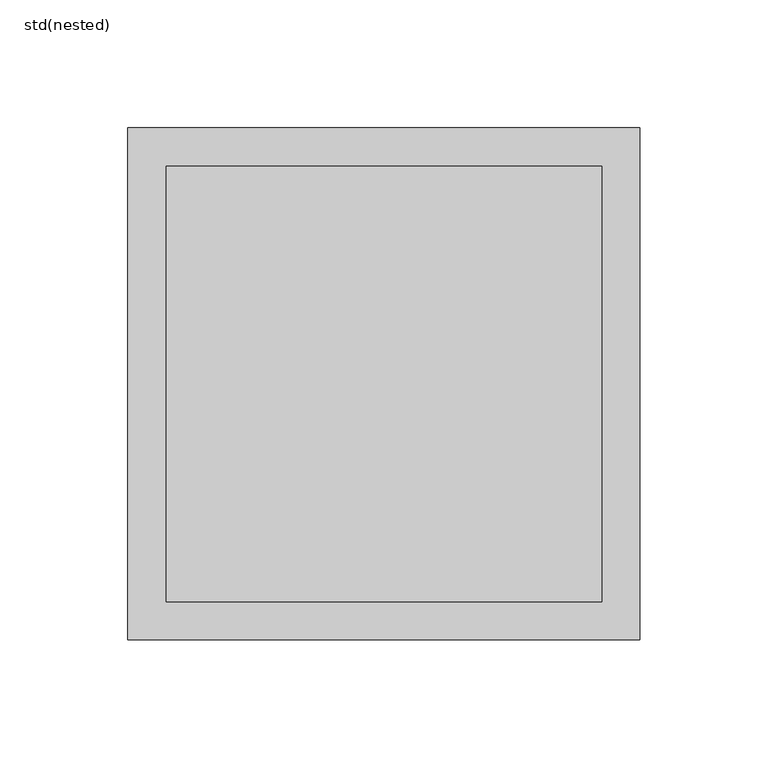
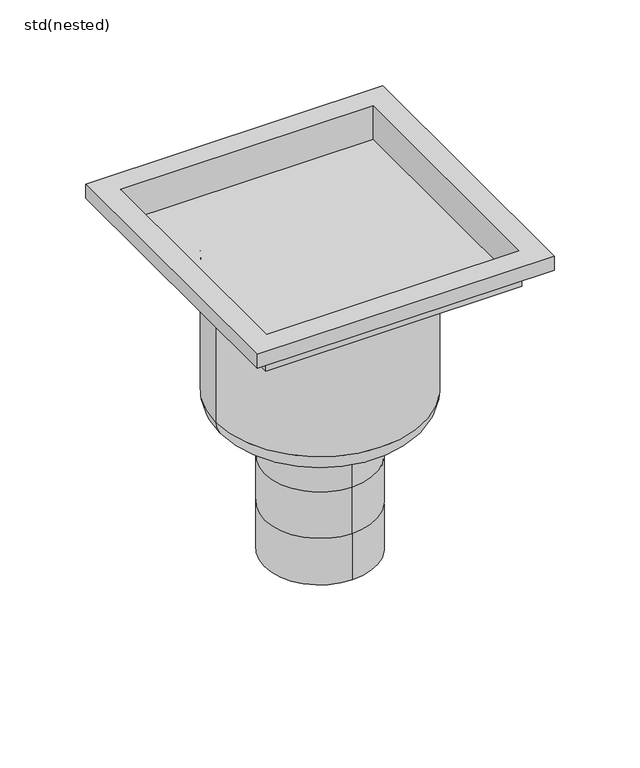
"""IFC4 building model written with IfcOpenShell, lengths in millimetres: sanitary terminal geometry, ZZZ_do not use_PF_ST_WPB_drain body fixed height gully Compact drain_CR 142_ACO : std(nested)."""

from ifc_helpers import new_model, si_unit, point, frame, origin, place, context, project, spatial, circle_curve, ellipse_curve, trimmed, source, transform, mapped, element, save
from ifc_brep_helpers import plane_surface, cylinder_surface, revolved_surface, advanced_brep


def std_nested_ddfe541a(model_context):
    return source(origin(), model_context, "Body", "AdvancedBrep", [
        advanced_brep(
        [(0.0, -37.5, -208.5), (0.0, 37.5, -208.5), (0.0, -37.5, -175.5), (0.0, 37.5, -175.5), (0.0, -37.5, -142.5), (0.0, 37.5, -142.5), (0.0, 37.5, -109.5), (37.5, 0.0, -109.5), (0.0, -37.5, -109.5), (-37.5, 0.0, -109.5), (70.0, 0.0, -94.5), (-70.0, 0.0, -94.5), (-70.0, 0.0, -2.0), (70.0, 0.0, -2.0), (55.0, 0.0, -109.5), (-55.0, 0.0, -109.5), (-70.0, 0.0, 0.0), (70.0, 0.0, 0.0), (85.0, 85.0, 1.25), (85.0, -85.0, 1.25), (85.0, -85.0, 25.0), (85.0, 85.0, 25.0), (100.0, 100.0, 15.0), (100.0, 100.0, 25.0), (100.0, -100.0, 25.0), (100.0, -100.0, 15.0), (86.25, 86.25, 0.0), (86.25, 86.25, 15.0), (86.25, -86.25, 15.0), (86.25, -86.25, 0.0), (-85.0, -85.0, 1.25), (-85.0, -85.0, 25.0), (-100.0, -100.0, 25.0), (-100.0, -100.0, 15.0), (-86.25, -86.25, 15.0), (-86.25, -86.25, 0.0), (-85.0, 85.0, 1.25), (-85.0, 85.0, 25.0), (-100.0, 100.0, 25.0), (-100.0, 100.0, 15.0), (-86.25, 86.25, 15.0), (-86.25, 86.25, 0.0)],
        [
            (0, 1, circle_curve(frame((0.0, 0.0, -208.5), z_axis=(0.0, 0.0, -1.0), x_axis=(0.0, 1.0, 0.0)), 37.5)),
            (1, 0, circle_curve(frame((0.0, 0.0, -208.5), z_axis=(0.0, 0.0, -1.0), x_axis=(0.0, 1.0, 0.0)), 37.5)),
            (0, 2),
            (2, 3, circle_curve(frame((0.0, 0.0, -175.5), z_axis=(0.0, 0.0, -1.0), x_axis=(0.0, 1.0, 0.0)), 37.5)),
            (3, 1),
            (3, 2, circle_curve(frame((0.0, 0.0, -175.5), z_axis=(0.0, 0.0, -1.0), x_axis=(0.0, 1.0, 0.0)), 37.5)),
            (4, 2),
            (3, 5),
            (5, 4, circle_curve(frame((0.0, 0.0, -142.5), z_axis=(0.0, 0.0, -1.0), x_axis=(1.0, 0.0, 0.0)), 37.5)),
            (4, 5, circle_curve(frame((0.0, 0.0, -142.5), z_axis=(0.0, 0.0, -1.0), x_axis=(-1.0, 0.0, 0.0)), 37.5)),
            (5, 6),
            (6, 7, circle_curve(frame((0.0, 0.0, -109.5), z_axis=(0.0, 0.0, -1.0), x_axis=(0.0, 1.0, 0.0)), 37.5)),
            (7, 8, circle_curve(frame((0.0, 0.0, -109.5), z_axis=(0.0, 0.0, -1.0), x_axis=(0.0, 1.0, 0.0)), 37.5)),
            (8, 4),
            (8, 9, circle_curve(frame((0.0, 0.0, -109.5), z_axis=(0.0, 0.0, -1.0), x_axis=(0.0, 1.0, 0.0)), 37.5)),
            (9, 6, circle_curve(frame((0.0, 0.0, -109.5), z_axis=(0.0, 0.0, -1.0), x_axis=(0.0, 1.0, 0.0)), 37.5)),
            (10, 11, circle_curve(frame((0.0, 0.0, -94.5), z_axis=(0.0, 0.0, 1.0), x_axis=(-1.0, 0.0, 0.0)), 70.0)),
            (11, 12),
            (12, 13, circle_curve(frame((0.0, 0.0, -2.0), z_axis=(0.0, 0.0, -1.0), x_axis=(-1.0, 0.0, 0.0)), 70.0)),
            (13, 10),
            (11, 10, circle_curve(frame((0.0, 0.0, -94.5), z_axis=(0.0, 0.0, 1.0), x_axis=(-1.0, 0.0, 0.0)), 70.0)),
            (13, 12, circle_curve(frame((0.0, 0.0, -2.0), z_axis=(0.0, 0.0, -1.0), x_axis=(-1.0, 0.0, 0.0)), 70.0)),
            (10, 14, circle_curve(frame((55.0, 0.0, -94.5), z_axis=(0.0, 1.0, 0.0), x_axis=(-1.0, 0.0, 0.0)), 15.0)),
            (14, 15, circle_curve(frame((0.0, 0.0, -109.5), z_axis=(0.0, 0.0, 1.0), x_axis=(-1.0, 0.0, 0.0)), 55.0)),
            (15, 11, circle_curve(frame((-55.0, 0.0, -94.5), z_axis=(0.0, 1.0, 0.0), x_axis=(1.0, 0.0, 0.0)), 15.0)),
            (15, 14, circle_curve(frame((0.0, 0.0, -109.5), z_axis=(0.0, 0.0, 1.0), x_axis=(-1.0, 0.0, 0.0)), 55.0)),
            (14, 7),
            (9, 15),
            (16, 12),
            (13, 17),
            (17, 16, circle_curve(frame((0.0, 0.0, 0.0), z_axis=(0.0, 0.0, -1.0), x_axis=(1.0, 0.0, 0.0)), 70.0)),
            (16, 17, circle_curve(frame((0.0, 0.0, 0.0), z_axis=(0.0, 0.0, -1.0), x_axis=(1.0, 0.0, 0.0)), 70.0)),
            (18, 19),
            (19, 20),
            (20, 21),
            (21, 18),
            (22, 23),
            (23, 24),
            (24, 25),
            (25, 22),
            (26, 27),
            (27, 28),
            (28, 29),
            (29, 26),
            (19, 30),
            (30, 31),
            (31, 20),
            (24, 32),
            (32, 33),
            (33, 25),
            (28, 34),
            (34, 35),
            (35, 29),
            (30, 36),
            (36, 37),
            (37, 31),
            (32, 38),
            (38, 39),
            (39, 33),
            (34, 40),
            (40, 41),
            (41, 35),
            (21, 37),
            (36, 18),
            (23, 38),
            (22, 39),
            (27, 40),
            (26, 41),
        ],
        [
            plane_surface(frame((0.0, 37.5, -208.5), z_axis=(0.0, 0.0, -1.0), x_axis=(1.0, 0.0, 0.0))),
            cylinder_surface(frame((0.0, 0.0, -175.5), z_axis=(0.0, 0.0, -1.0), x_axis=(0.0, 1.0, 0.0)), 37.5),
            cylinder_surface(frame((0.0, 0.0, -142.5), z_axis=(0.0, 0.0, -1.0), x_axis=(1.0, 0.0, 0.0)), 37.5),
            cylinder_surface(frame((0.0, 0.0, -142.5), z_axis=(0.0, 0.0, -1.0), x_axis=(-1.0, 0.0, 0.0)), 37.5),
            cylinder_surface(frame((0.0, 0.0, -109.5), z_axis=(0.0, 0.0, -1.0), x_axis=(0.0, 1.0, 0.0)), 37.5),
            cylinder_surface(frame((0.0, 0.0, 60.0), z_axis=(0.0, 0.0, -1.0), x_axis=(-1.0, 0.0, 0.0)), 70.0),
            revolved_surface(trimmed(ellipse_curve(frame((-55.0, 0.0, -94.5), z_axis=(0.0, -1.0, 0.0), x_axis=(1.0, 0.0, 0.0)), 15.0, 15.0), [point((-70.0, 0.0, -94.5))], [point((-55.0, 0.0, -109.5))], True, "CARTESIAN"), (0.0, 0.0, 60.0), (0.0, 0.0, -1.0)),
            plane_surface(frame((0.0, 0.0, -109.5), z_axis=(0.0, 0.0, -1.0), x_axis=(-1.0, 0.0, 0.0))),
            cylinder_surface(frame((0.0, 0.0, -2.0), z_axis=(0.0, 0.0, 1.0), x_axis=(1.0, 0.0, 0.0)), 70.0),
            plane_surface(frame((85.0, 85.0, 15.0), z_axis=(-1.0, 0.0, 0.0), x_axis=(0.0, -1.0, 0.0))),
            plane_surface(frame((100.0, 100.0, 25.0), z_axis=(1.0, 0.0, 0.0), x_axis=(0.0, -1.0, 0.0))),
            plane_surface(frame((86.25, 86.25, 15.0), z_axis=(1.0, 0.0, 0.0), x_axis=(0.0, -1.0, 0.0))),
            plane_surface(frame((85.0, -85.0, 15.0), z_axis=(0.0, 1.0, 0.0), x_axis=(-1.0, 0.0, 0.0))),
            plane_surface(frame((100.0, -100.0, 25.0), z_axis=(0.0, -1.0, 0.0), x_axis=(-1.0, 0.0, 0.0))),
            plane_surface(frame((86.25, -86.25, 15.0), z_axis=(0.0, -1.0, 0.0), x_axis=(-1.0, 0.0, 0.0))),
            plane_surface(frame((-85.0, -85.0, 15.0), z_axis=(1.0, 0.0, 0.0), x_axis=(0.0, 1.0, 0.0))),
            plane_surface(frame((-100.0, -100.0, 25.0), z_axis=(-1.0, 0.0, 0.0), x_axis=(0.0, 1.0, 0.0))),
            plane_surface(frame((-86.25, -86.25, 15.0), z_axis=(-1.0, 0.0, 0.0), x_axis=(0.0, 1.0, 0.0))),
            plane_surface(frame((-85.0, 85.0, 15.0), z_axis=(0.0, -1.0, 0.0), x_axis=(1.0, 0.0, 0.0))),
            plane_surface(frame((-85.0, 85.0, 25.0), z_axis=(0.0, 0.0, 1.0), x_axis=(1.0, 0.0, 0.0))),
            plane_surface(frame((-100.0, 100.0, 25.0), z_axis=(0.0, 1.0, 0.0), x_axis=(1.0, 0.0, 0.0))),
            plane_surface(frame((-100.0, 100.0, 15.0), z_axis=(0.0, 0.0, -1.0), x_axis=(1.0, 0.0, 0.0))),
            plane_surface(frame((-86.25, 86.25, 15.0), z_axis=(0.0, 1.0, 0.0), x_axis=(1.0, 0.0, 0.0))),
            plane_surface(frame((-86.25, 86.25, 0.0), z_axis=(0.0, 0.0, -1.0), x_axis=(1.0, 0.0, 0.0))),
            plane_surface(frame((0.0, 0.0, 1.25), z_axis=(0.0, 0.0, 1.0), x_axis=(1.0, 0.0, 0.0))),
        ],
        [
            (0, [[1, 2]]),
            (1, [[-1, 3, 4, 5]]),
            (1, [[-2, -5, 6, -3]]),
            (2, [[7, -6, 8, 9]]),
            (3, [[-7, 10, -8, -4]]),
            (4, [[11, 12, 13, 14, -9]]),
            (4, [[-11, -10, -14, 15, 16]]),
            (5, [[17, 18, 19, 20]]),
            (5, [[-18, 21, -20, 22]]),
            (6, [[-17, 23, 24, 25]]),
            (6, [[-21, -25, 26, -23]]),
            (7, [[-24, 27, -12, -16, 28]]),
            (7, [[-26, -28, -15, -13, -27]]),
            (8, [[29, -22, 30, 31]]),
            (8, [[-29, 32, -30, -19]]),
            (9, [[33, 34, 35, 36]]),
            (10, [[37, 38, 39, 40]]),
            (11, [[41, 42, 43, 44]]),
            (12, [[-34, 45, 46, 47]]),
            (13, [[-39, 48, 49, 50]]),
            (14, [[-43, 51, 52, 53]]),
            (15, [[-46, 54, 55, 56]]),
            (16, [[-49, 57, 58, 59]]),
            (17, [[-52, 60, 61, 62]]),
            (18, [[-36, 63, -55, 64]]),
            (19, [[-38, 65, -57, -48], [-35, -47, -56, -63]]),
            (20, [[-37, 66, -58, -65]]),
            (21, [[-40, -50, -59, -66], [-42, 67, -60, -51]]),
            (22, [[-41, 68, -61, -67]]),
            (23, [[-44, -53, -62, -68], [-31, -32]]),
            (24, [[-33, -64, -54, -45]]),
        ],
    ),
    ])


if __name__ == "__main__":
    model = new_model("IFC4")
    model_context = context("Model", 3, world=origin())
    ifc_project = project(units=[si_unit("LENGTHUNIT", "METRE", prefix="MILLI")], contexts=[model_context])
    site = spatial("IfcSite", under=ifc_project)
    building = spatial("IfcBuilding", under=site)
    placement = place(None, origin())
    std_nested_shape = std_nested_ddfe541a(model_context)
    element("IfcSanitaryTerminal", 1, ObjectType="ZZZ_do not use_PF_ST_WPB_drain body fixed height gully Compact drain_CR 142_ACO : std(nested)", at=placement, inside=building, context=model_context, shape_type="MappedRepresentation", body=[
        mapped(std_nested_shape, transform((0.0, 0.0, 0.0), x_axis=(1.0, 0.0, 0.0), y_axis=(0.0, 1.0, 0.0), z_axis=(0.0, 0.0, 1.0))),
    ])
    save(model, "model.ifc")
